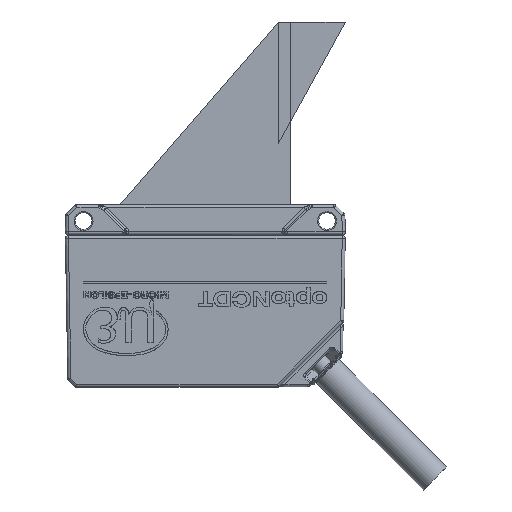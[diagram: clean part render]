
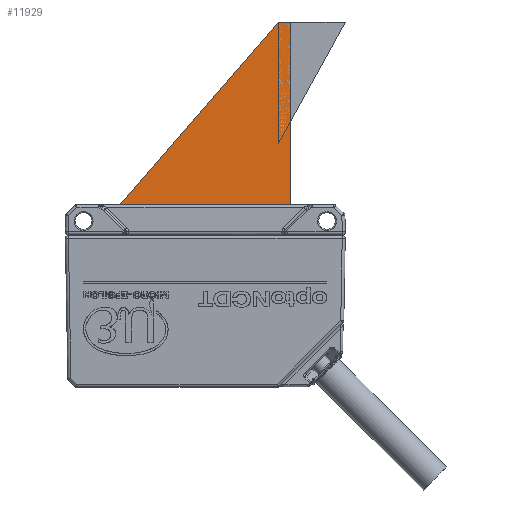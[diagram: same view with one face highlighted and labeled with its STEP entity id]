
A CAD part, front view. The second image highlights one B-rep face of the part: STEP entity #11929.
In plain terms, the highlighted planar face has unit normal (0, -1, 0).
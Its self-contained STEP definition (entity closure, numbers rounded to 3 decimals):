
#2254 = ORIENTED_EDGE ( 'NONE', *, *, #48580, .F. ) ;
#2592 = LINE ( 'NONE', #5176, #34008 ) ;
#5176 = CARTESIAN_POINT ( 'NONE',  ( 14., -1.5, 5. ) ) ;
#5896 = ORIENTED_EDGE ( 'NONE', *, *, #63694, .F. ) ;
#6373 = EDGE_LOOP ( 'NONE', ( #50122, #2254, #27213, #5896 ) ) ;
#7390 = LINE ( 'NONE', #7661, #46181 ) ;
#7661 = CARTESIAN_POINT ( 'NONE',  ( -14., -1.5, 5. ) ) ;
#10234 = AXIS2_PLACEMENT_3D ( 'NONE', #14505, #56068, #56279 ) ;
#11929 = ADVANCED_FACE ( 'NONE', ( #56554 ), #40496, .T. ) ;
#12143 = VECTOR ( 'NONE', #23142, 1000. ) ;
#12804 = DIRECTION ( 'NONE',  ( -1., 0., 0. ) ) ;
#12998 = EDGE_CURVE ( 'NONE', #56478, #31658, #25359, .T. ) ;
#14505 = CARTESIAN_POINT ( 'NONE',  ( 0., -1.5, 0. ) ) ;
#18316 = CARTESIAN_POINT ( 'NONE',  ( 12., -1.5, 35. ) ) ;
#19547 = VERTEX_POINT ( 'NONE', #52745 ) ;
#20064 = CARTESIAN_POINT ( 'NONE',  ( 12., -1.5, 35. ) ) ;
#20078 = VERTEX_POINT ( 'NONE', #59390 ) ;
#22934 = CARTESIAN_POINT ( 'NONE',  ( 14., -1.5, 35. ) ) ;
#23142 = DIRECTION ( 'NONE',  ( 0.655, 0., 0.756 ) ) ;
#23536 = LINE ( 'NONE', #18316, #12143 ) ;
#25359 = LINE ( 'NONE', #36273, #53602 ) ;
#27213 = ORIENTED_EDGE ( 'NONE', *, *, #12998, .F. ) ;
#30005 = DIRECTION ( 'NONE',  ( 0., 0., -1. ) ) ;
#31658 = VERTEX_POINT ( 'NONE', #22934 ) ;
#34008 = VECTOR ( 'NONE', #30005, 1000. ) ;
#36064 = DIRECTION ( 'NONE',  ( 1., 0., 0. ) ) ;
#36273 = CARTESIAN_POINT ( 'NONE',  ( 14., -1.5, 35. ) ) ;
#39250 = EDGE_CURVE ( 'NONE', #19547, #20078, #7390, .T. ) ;
#40496 = PLANE ( 'NONE',  #10234 ) ;
#46181 = VECTOR ( 'NONE', #12804, 1000. ) ;
#48580 = EDGE_CURVE ( 'NONE', #31658, #19547, #2592, .T. ) ;
#50122 = ORIENTED_EDGE ( 'NONE', *, *, #39250, .F. ) ;
#52745 = CARTESIAN_POINT ( 'NONE',  ( 14., -1.5, 5. ) ) ;
#53602 = VECTOR ( 'NONE', #36064, 1000. ) ;
#56068 = DIRECTION ( 'NONE',  ( 0., -1., 0. ) ) ;
#56279 = DIRECTION ( 'NONE',  ( 0., 0., -1. ) ) ;
#56478 = VERTEX_POINT ( 'NONE', #20064 ) ;
#56554 = FACE_OUTER_BOUND ( 'NONE', #6373, .T. ) ;
#59390 = CARTESIAN_POINT ( 'NONE',  ( -14., -1.5, 5. ) ) ;
#63694 = EDGE_CURVE ( 'NONE', #20078, #56478, #23536, .T. ) ;
